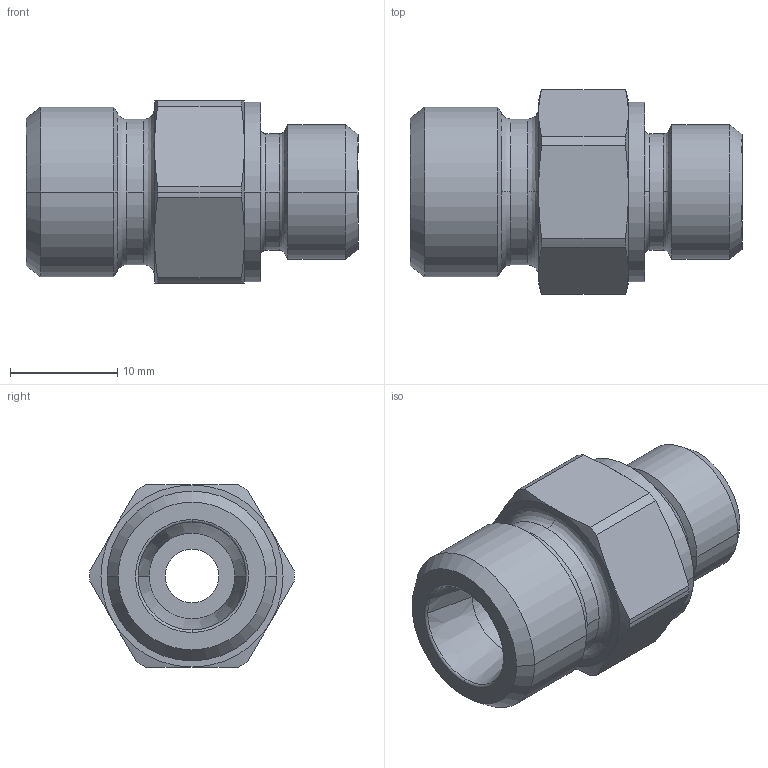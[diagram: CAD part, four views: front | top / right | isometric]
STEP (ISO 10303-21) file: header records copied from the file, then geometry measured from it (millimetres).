
FILE_DESCRIPTION((''),'2;1');
FILE_NAME('100915.stp','2007-10-30T15:28:36',(''),(''),'AutoCAD STEP 2000i','AutoCAD 2000i',', , ');
FILE_SCHEMA(('CONFIG_CONTROL_DESIGN'));
Length unit declared in the file: millimetre
Products named in the file (2): 100915.0; CHIAVE SMUSSATA#0
Assembly tree (1 placements, depth 2):
  100915.0
    CHIAVE SMUSSATA#0
Bounding box: 31 x 19.1 x 17 mm (x, y, z)
Volume: 4722 mm3; surface area: 2511.7 mm2
Topology: 1 solids, 1 shells, 68 faces, 165 edges, 103 vertices
Faces by surface type: cone 24, cylinder 22, plane 12, bspline 8, torus 2
Entity records: 2431 total; most frequent: CARTESIAN_POINT 738, DIRECTION 366, ORIENTED_EDGE 330, EDGE_CURVE 165, AXIS2_PLACEMENT_3D 163, VERTEX_POINT 103, CIRCLE 101, EDGE_LOOP 74
